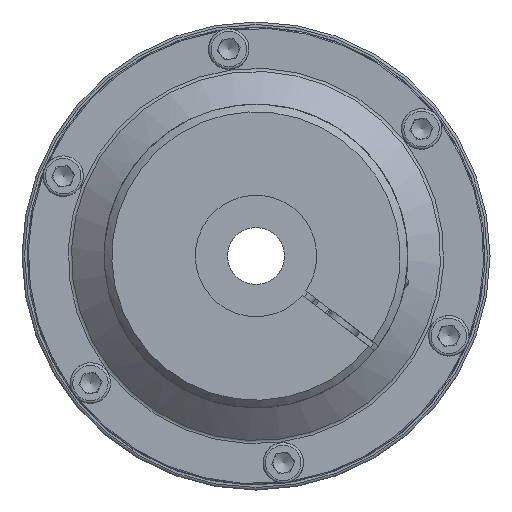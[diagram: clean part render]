
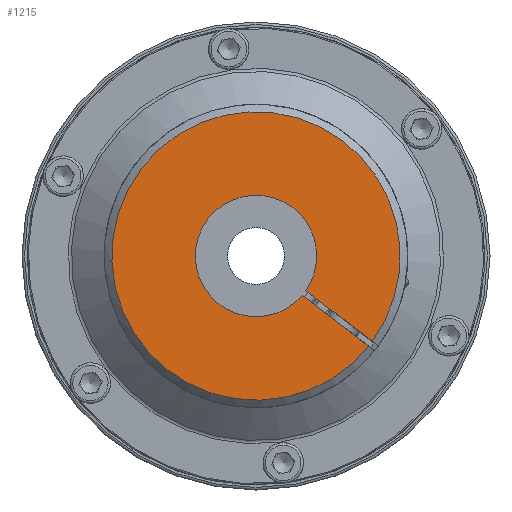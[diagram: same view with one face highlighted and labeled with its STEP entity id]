
A CAD part, left-side view. The second image highlights one B-rep face of the part: STEP entity #1215.
In plain terms, the highlighted planar face has unit normal (-1, 0, 0).
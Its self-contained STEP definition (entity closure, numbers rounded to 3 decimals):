
#1215 = ADVANCED_FACE( '', ( #2782 ), #2783, .T. );
#2782 = FACE_OUTER_BOUND( '', #4850, .T. );
#2783 = PLANE( '', #4851 );
#4850 = EDGE_LOOP( '', ( #8609, #8610, #8611, #8612 ) );
#4851 = AXIS2_PLACEMENT_3D( '', #8613, #8614, #8615 );
#8609 = ORIENTED_EDGE( '', *, *, #11898, .T. );
#8610 = ORIENTED_EDGE( '', *, *, #11986, .T. );
#8611 = ORIENTED_EDGE( '', *, *, #11480, .T. );
#8612 = ORIENTED_EDGE( '', *, *, #11043, .T. );
#8613 = CARTESIAN_POINT( '', ( -77.85, -7.305, 9.52 ) );
#8614 = DIRECTION( '', ( -1., 0., 0. ) );
#8615 = DIRECTION( '', ( 0., 0., 1. ) );
#11043 = EDGE_CURVE( '', #13302, #13306, #13308, .T. );
#11480 = EDGE_CURVE( '', #13998, #13302, #13999, .T. );
#11898 = EDGE_CURVE( '', #13306, #14583, #14585, .T. );
#11986 = EDGE_CURVE( '', #14583, #13998, #14702, .T. );
#13302 = VERTEX_POINT( '', #18015 );
#13306 = VERTEX_POINT( '', #18020 );
#13308 = CIRCLE( '', #18023, 57. );
#13998 = VERTEX_POINT( '', #20166 );
#13999 = LINE( '', #20167, #20168 );
#14583 = VERTEX_POINT( '', #21985 );
#14585 = LINE( '', #21988, #21989 );
#14702 = CIRCLE( '', #22236, 24. );
#18015 = CARTESIAN_POINT( '', ( -77.85, -45.917, -33.773 ) );
#18020 = CARTESIAN_POINT( '', ( -77.85, -44.481, -35.644 ) );
#18023 = AXIS2_PLACEMENT_3D( '', #24537, #24538, #24539 );
#20166 = CARTESIAN_POINT( '', ( -77.85, -19.723, -13.675 ) );
#20167 = CARTESIAN_POINT( '', ( -77.85, -9.941, -6.168 ) );
#20168 = VECTOR( '', #25047, 1000. );
#21985 = CARTESIAN_POINT( '', ( -77.85, -18.286, -15.544 ) );
#21988 = CARTESIAN_POINT( '', ( -77.85, -48.173, -38.477 ) );
#21989 = VECTOR( '', #25522, 1000. );
#22236 = AXIS2_PLACEMENT_3D( '', #25638, #25639, #25640 );
#24537 = CARTESIAN_POINT( '', ( -77.85, 0., 0. ) );
#24538 = DIRECTION( '', ( -1., 0., 0. ) );
#24539 = DIRECTION( '', ( 0., -0.609, 0.793 ) );
#25047 = DIRECTION( '', ( 0., -0.793, -0.609 ) );
#25522 = DIRECTION( '', ( 0., 0.793, 0.609 ) );
#25638 = CARTESIAN_POINT( '', ( -77.85, 0., 0. ) );
#25639 = DIRECTION( '', ( 1., 0., 0. ) );
#25640 = DIRECTION( '', ( 0., -0.793, -0.609 ) );
